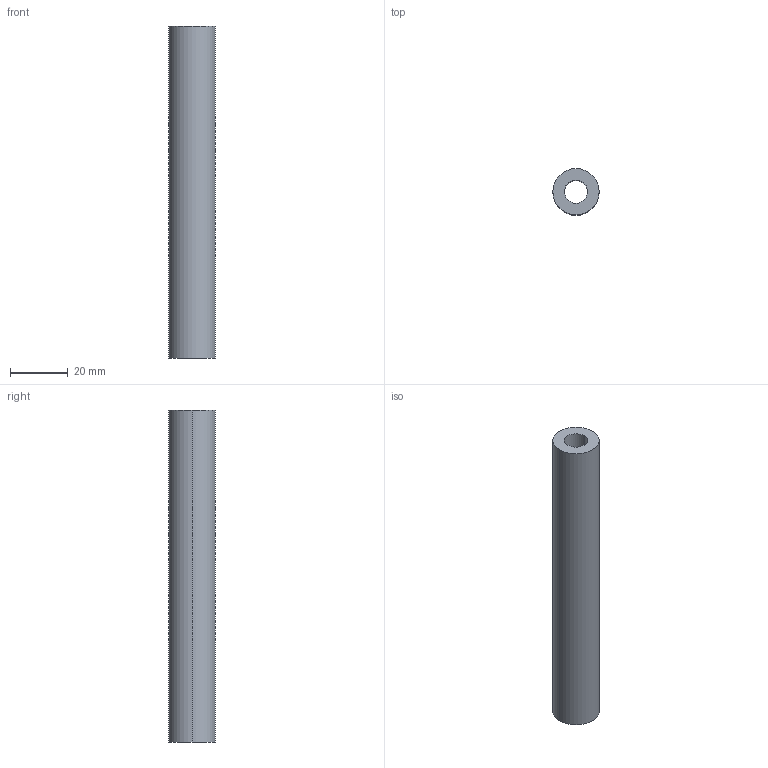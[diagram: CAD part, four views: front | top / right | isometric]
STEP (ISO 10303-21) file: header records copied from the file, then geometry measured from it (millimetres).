
FILE_DESCRIPTION (( 'STEP AP214' ), '1' );
FILE_NAME ('BRV-16X115.STEP', '2020-07-22T09:24:40', ( 'August' ), ( '' ), 'SwSTEP 2.0', 'SolidWorks 2018', '' );
FILE_SCHEMA (( 'AUTOMOTIVE_DESIGN' ));
Length unit declared in the file: millimetre
Products named in the file (1): BRV-16X115
Bounding box: 16 x 16 x 115 mm (x, y, z)
Volume: 17341.6 mm3; surface area: 8972.4 mm2
Topology: 1 solids, 1 shells, 6 faces, 12 edges, 8 vertices
Faces by surface type: cylinder 4, plane 2
Entity records: 202 total; most frequent: DIRECTION 34, CARTESIAN_POINT 27, ORIENTED_EDGE 24, AXIS2_PLACEMENT_3D 15, EDGE_CURVE 12, CIRCLE 8, EDGE_LOOP 8, VERTEX_POINT 8
